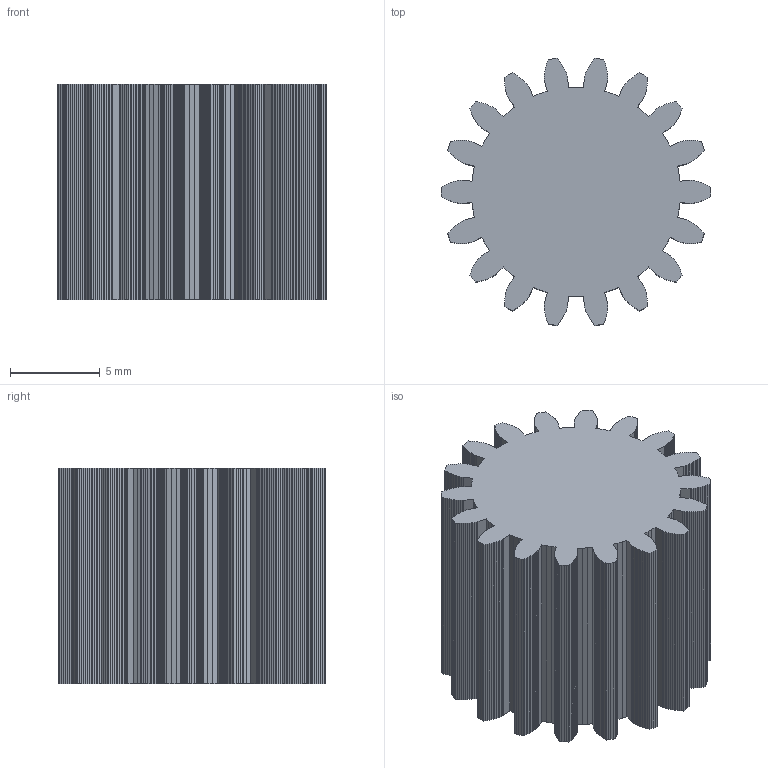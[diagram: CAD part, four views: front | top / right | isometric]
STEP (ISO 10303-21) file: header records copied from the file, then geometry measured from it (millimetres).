
FILE_DESCRIPTION(('FreeCAD Model'),'2;1');
FILE_NAME('Open CASCADE Shape Model','2026-11-05T18:53:51',('FreeCAD'),( 'FreeCAD'),'Open CASCADE STEP processor 7.8','FreeCAD','Unknown');
FILE_SCHEMA(('AUTOMOTIVE_DESIGN { 1 0 10303 214 1 1 1 1 }'));
Length unit declared in the file: millimetre
Products named in the file (1): Open CASCADE STEP translator 7.8 43
Bounding box: 15 x 14.85 x 12 mm (x, y, z)
Volume: 1669.4 mm3; surface area: 1344.9 mm2
Topology: 1 solids, 1 shells, 596 faces, 1782 edges, 1188 vertices
Faces by surface type: plane 596
Entity records: 19636 total; most frequent: CARTESIAN_POINT 3567, ORIENTED_EDGE 3564, DIRECTION 2976, EDGE_CURVE 1782, LINE 1782, VECTOR 1782, VERTEX_POINT 1188, AXIS2_PLACEMENT_3D 597
